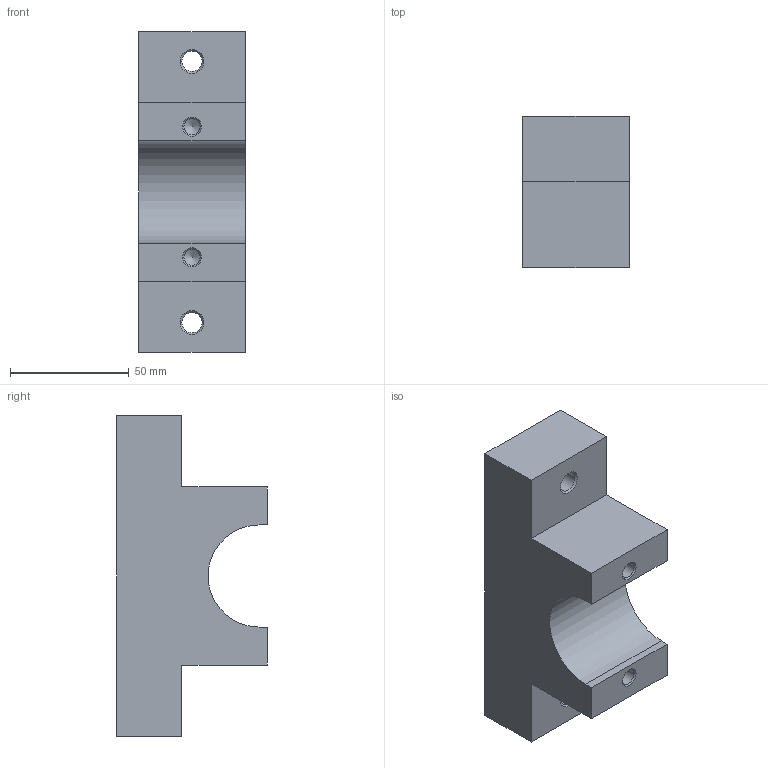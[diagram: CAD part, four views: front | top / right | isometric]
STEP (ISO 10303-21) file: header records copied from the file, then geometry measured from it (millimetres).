
FILE_DESCRIPTION(/* description */ (''),/* implementation_level */ '2;1');
FILE_NAME(/* name */ 'TRAYLOADER.42.1.stp',/* time_stamp */ '2025-05-12T16:02:45+02:00',/* author */ (''),/* organization */ (''),/* preprocessor_version */ 'ST-DEVELOPER v19.4',/* originating_system */ 'SIEMENS PLM Software NX2306.5001',/* authorisation */ '');
FILE_SCHEMA (('AP203_CONFIGURATION_CONTROLLED_3D_DESIGN_OF_MECHANICAL_PARTS_AND_ASSEMBLIES_MIM_LF { 1 0 10303 403 2 1 2}'));
Length unit declared in the file: millimetre
Products named in the file (1): TRAYLOADER.42.1_objects
Bounding box: 45 x 63.5 x 135 mm (x, y, z)
Volume: 244672.2 mm3; surface area: 32277.5 mm2
Topology: 1 solids, 1 shells, 26 faces, 70 edges, 46 vertices
Faces by surface type: plane 13, cone 8, cylinder 5
Full cylindrical faces by diameter (mm): 6.8 x2, 8.5 x2
Entity records: 784 total; most frequent: DIRECTION 120, CARTESIAN_POINT 117, ORIENTED_EDGE 100, EDGE_CURVE 50, AXIS2_PLACEMENT_3D 43, EDGE_LOOP 42, VERTEX_POINT 40, FACE_BOUND 35
